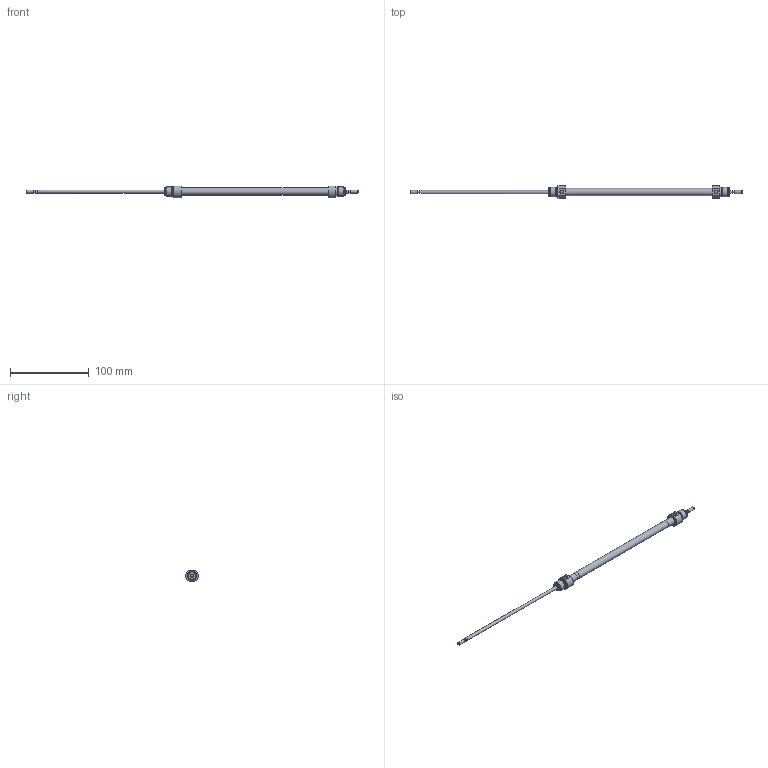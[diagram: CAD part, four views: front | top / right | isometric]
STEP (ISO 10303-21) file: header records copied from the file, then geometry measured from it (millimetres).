
FILE_DESCRIPTION( ( 'STEP AP203' ), '1' );
FILE_NAME( '//expscmdclustefs.cadenas.external/client_exchange/iodir/jobs/output/wkb68261729_no0/STEP/M101-08-0160--__0__2_03.stp', ' ', ( ' ' ), ( ' ' ), 'PSStep 15.0.47', 'PARTsolutions', ' ' );
FILE_SCHEMA( ( 'CONFIG_CONTROL_DESIGN' ) );
Length unit declared in the file: millimetre
Products named in the file (3): M101-08-0160-- [0]; HI_M101-08-0160---[0]-z; HI_M101-08-0160---[0]-k
Assembly tree (2 placements, depth 2):
  M101-08-0160-- [0]
    HI_M101-08-0160---[0]-z
    HI_M101-08-0160---[0]-k
Bounding box: 422 x 15.98 x 14.97 mm (x, y, z)
Volume: 15299 mm3; surface area: 18519.8 mm2
Topology: 2 solids, 2 shells, 71 faces, 145 edges, 88 vertices
Faces by surface type: plane 32, cylinder 23, cone 14, torus 2
Full cylindrical faces by diameter (mm): 3.141 x2, 4 x6, 4.134 x2, 8 x2, 9.3 x1, 10.466 x4, 12 x4
Entity records: 1832 total; most frequent: CARTESIAN_POINT 352, DIRECTION 312, ORIENTED_EDGE 212, AXIS2_PLACEMENT_3D 140, EDGE_LOOP 120, EDGE_CURVE 106, FACE_OUTER_BOUND 94, VERTEX_POINT 82
